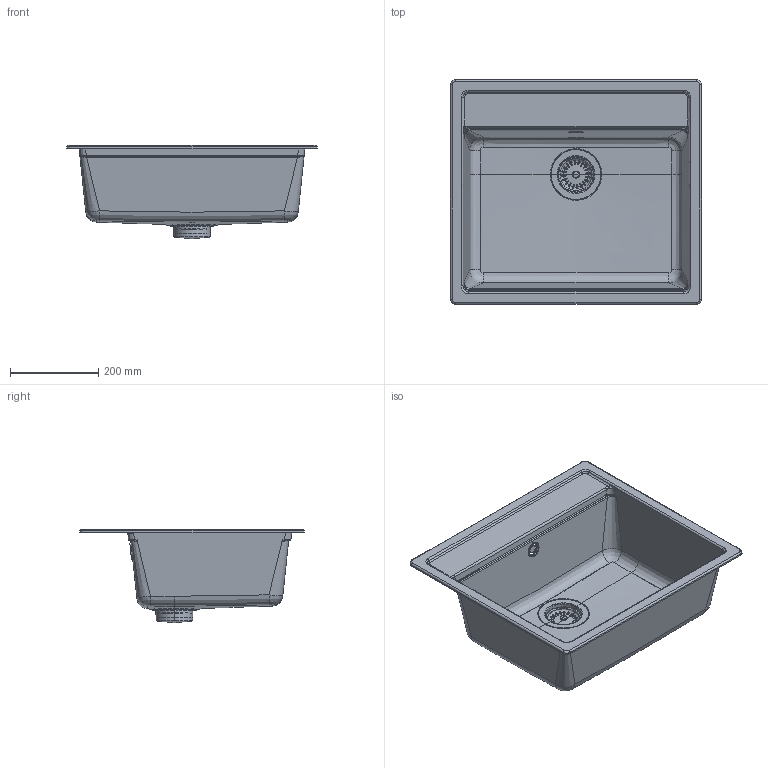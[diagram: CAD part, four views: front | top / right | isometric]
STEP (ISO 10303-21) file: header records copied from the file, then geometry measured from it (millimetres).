
FILE_DESCRIPTION(/* description */ (''),/* implementation_level */ '2;1');
FILE_NAME(/* name */ 'NEMN100',/* time_stamp */ '2014-11-04T10:21:03+01:00',/* author */ (''),/* organization */ (''),/* preprocessor_version */ 'ST-DEVELOPER v15',/* originating_system */ '',/* authorisation */ '');
FILE_SCHEMA (('AUTOMOTIVE_DESIGN'));
Length unit declared in the file: millimetre
Products named in the file (1): Document
Bounding box: 570 x 510 x 212.25 mm (x, y, z)
Volume: 31105.3 mm3; surface area: 583716.7 mm2
Topology: 3 solids, 154 shells, 332 faces, 1335 edges, 1112 vertices
Faces by surface type: bspline 312, plane 20
Entity records: 56585 total; most frequent: CARTESIAN_POINT 49564, ORIENTED_EDGE 1921, EDGE_CURVE 1325, VERTEX_POINT 1112, B_SPLINE_CURVE_WITH_KNOTS 893, EDGE_LOOP 419, ADVANCED_FACE 332, FACE_OUTER_BOUND 332
